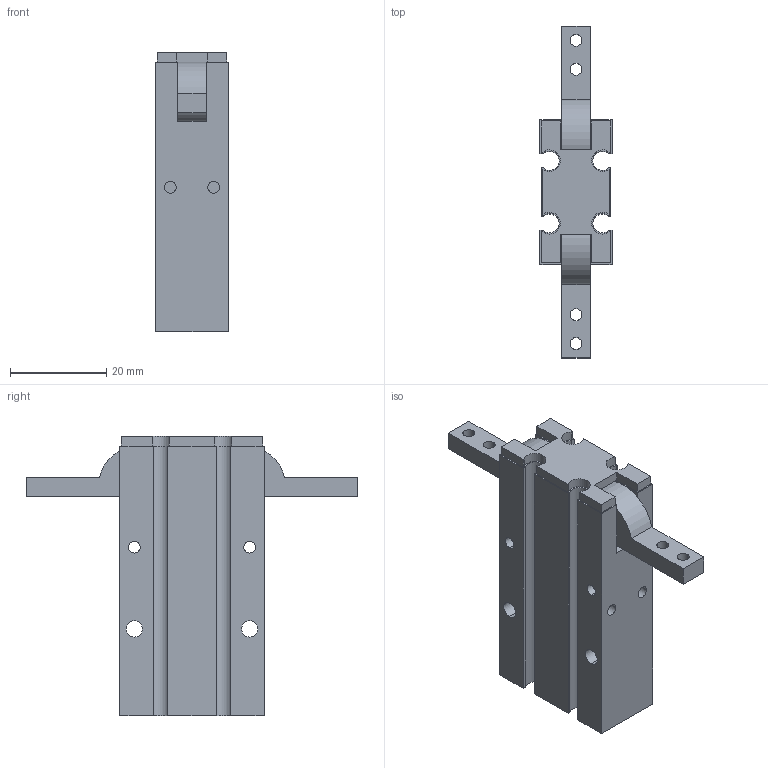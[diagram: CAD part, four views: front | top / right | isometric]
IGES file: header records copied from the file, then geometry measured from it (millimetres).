
Global section: file name: No Iges File Name specified; native system: AutoDesk Inventor R11.0; preprocessor: AutoDesk Inventor Iges Exporter R11.0; author: No Author specified; organization: No Organization specified; date: 20070226.140126; units: millimetre
Bounding box: 15 x 69 x 58 mm (x, y, z)
Volume: 21637.4 mm3; surface area: 11247 mm2
Topology: 3 solids, 3 shells, 122 faces, 326 edges, 216 vertices
Faces by surface type: plane 64, bspline 34, revolution 16, cylinder 8
